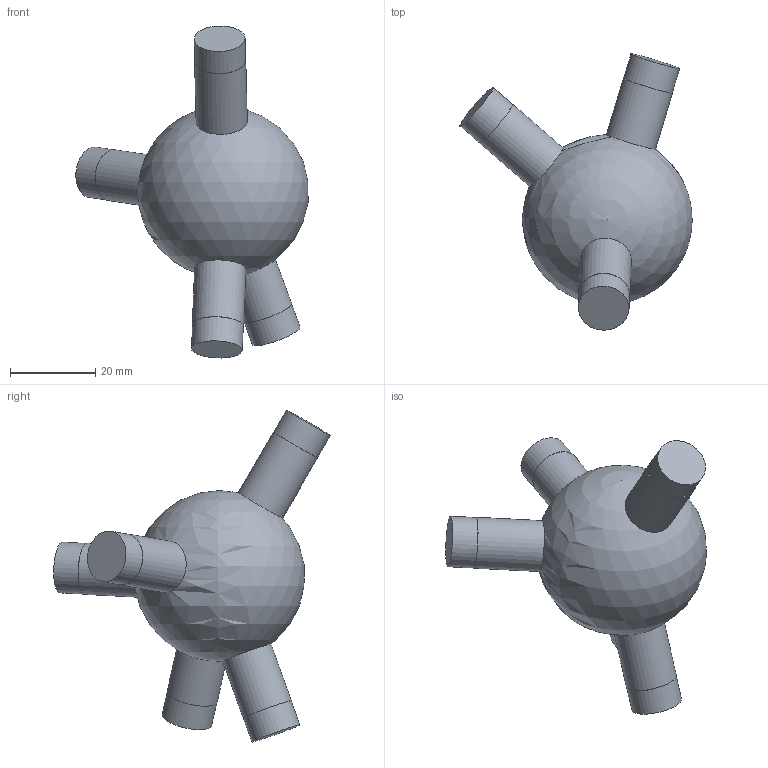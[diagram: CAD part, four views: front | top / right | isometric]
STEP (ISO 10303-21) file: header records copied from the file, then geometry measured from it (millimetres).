
FILE_DESCRIPTION(('Open CASCADE Model'),'2;1');
FILE_NAME('Open CASCADE Shape Model','2026-10-21T12:47:57',('Author'),( 'Open CASCADE'),'Open CASCADE STEP processor 7.9','Open CASCADE 7.9' ,'Unknown');
FILE_SCHEMA(('AUTOMOTIVE_DESIGN { 1 0 10303 214 1 1 1 1 }'));
Length unit declared in the file: millimetre
Products named in the file (1): Open CASCADE STEP translator 7.9 39
Bounding box: 54.42 x 64.81 x 77.79 mm (x, y, z)
Volume: 44677 mm3; surface area: 8832.3 mm2
Topology: 1 solids, 1 shells, 21 faces, 35 edges, 24 vertices
Faces by surface type: cylinder 10, plane 10, sphere 1
Full cylindrical faces by diameter (mm): 11.9 x5, 12 x5
Entity records: 1411 total; most frequent: CARTESIAN_POINT 617, DIRECTION 163, ORIENTED_EDGE 68, PCURVE 68, DEFINITIONAL_REPRESENTATION 68, LINE 56, VECTOR 56, AXIS2_PLACEMENT_3D 46
